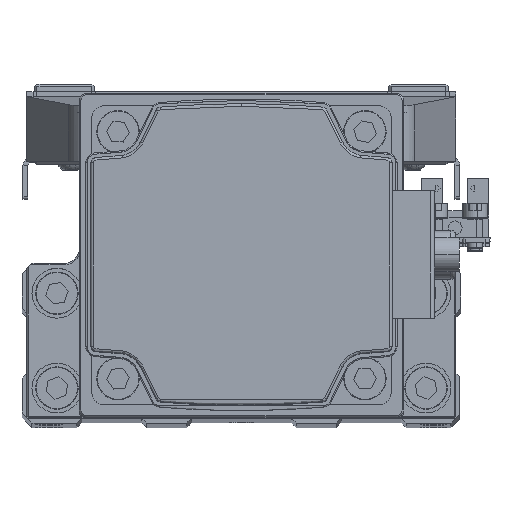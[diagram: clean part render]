
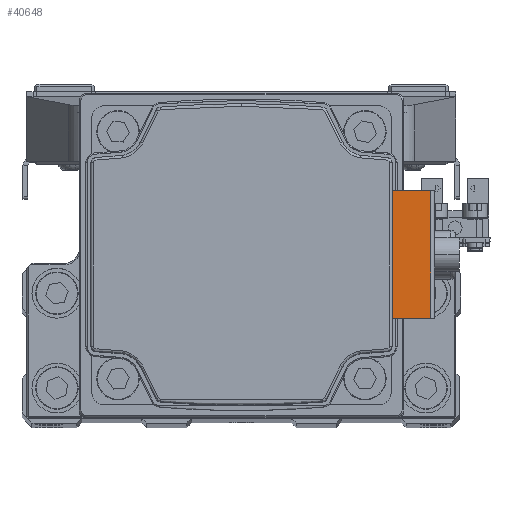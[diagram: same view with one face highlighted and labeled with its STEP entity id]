
A CAD part, top view. The second image highlights one B-rep face of the part: STEP entity #40648.
In plain terms, the highlighted planar face has unit normal (0, 0, 1) as drawn and (0, 0, -1) by its records, which use the part's own axes.
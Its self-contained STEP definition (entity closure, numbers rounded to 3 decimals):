
#1388 = DIRECTION ( 'NONE',  ( 1., 0., 0. ) ) ;
#1590 = EDGE_CURVE ( 'NONE', #5207, #26103, #6397, .T. ) ;
#1980 = ORIENTED_EDGE ( 'NONE', *, *, #37985, .F. ) ;
#3852 = DIRECTION ( 'NONE',  ( 0., 1., 0. ) ) ;
#4057 = DIRECTION ( 'NONE',  ( 1., 0., 0. ) ) ;
#5207 = VERTEX_POINT ( 'NONE', #28097 ) ;
#6397 = LINE ( 'NONE', #20742, #17610 ) ;
#6511 = EDGE_CURVE ( 'NONE', #33432, #9466, #21740, .T. ) ;
#6877 = DIRECTION ( 'NONE',  ( 0., 0., -1. ) ) ;
#7070 = VECTOR ( 'NONE', #3852, 1000. ) ;
#9466 = VERTEX_POINT ( 'NONE', #39618 ) ;
#10416 = FACE_OUTER_BOUND ( 'NONE', #20412, .T. ) ;
#10446 = CARTESIAN_POINT ( 'NONE',  ( 12.75, 37.9, -88.696 ) ) ;
#11129 = LINE ( 'NONE', #36312, #30856 ) ;
#13364 = AXIS2_PLACEMENT_3D ( 'NONE', #39150, #6877, #21229 ) ;
#14280 = ORIENTED_EDGE ( 'NONE', *, *, #42632, .T. ) ;
#17610 = VECTOR ( 'NONE', #35132, 1000. ) ;
#19255 = LINE ( 'NONE', #33642, #24166 ) ;
#20412 = EDGE_LOOP ( 'NONE', ( #25147, #14280, #42256, #1980 ) ) ;
#20742 = CARTESIAN_POINT ( 'NONE',  ( 12.75, 33.991, -88.696 ) ) ;
#21229 = DIRECTION ( 'NONE',  ( -1., 0., 0. ) ) ;
#21740 = LINE ( 'NONE', #36105, #7070 ) ;
#24166 = VECTOR ( 'NONE', #1388, 1000. ) ;
#24769 = PLANE ( 'NONE',  #13364 ) ;
#25147 = ORIENTED_EDGE ( 'NONE', *, *, #6511, .T. ) ;
#26103 = VERTEX_POINT ( 'NONE', #10446 ) ;
#28097 = CARTESIAN_POINT ( 'NONE',  ( 12.75, 30.2, -88.696 ) ) ;
#30856 = VECTOR ( 'NONE', #4057, 1000. ) ;
#33432 = VERTEX_POINT ( 'NONE', #45448 ) ;
#33642 = CARTESIAN_POINT ( 'NONE',  ( 0., 37.9, -88.696 ) ) ;
#35132 = DIRECTION ( 'NONE',  ( 0., 1., 0. ) ) ;
#36105 = CARTESIAN_POINT ( 'NONE',  ( -12.75, 37.9, -88.696 ) ) ;
#36312 = CARTESIAN_POINT ( 'NONE',  ( 18.438, 30.2, -88.696 ) ) ;
#37985 = EDGE_CURVE ( 'NONE', #33432, #5207, #11129, .T. ) ;
#39150 = CARTESIAN_POINT ( 'NONE',  ( 0., 37.9, -88.696 ) ) ;
#39618 = CARTESIAN_POINT ( 'NONE',  ( -12.75, 37.9, -88.696 ) ) ;
#40648 = ADVANCED_FACE ( 'NONE', ( #10416 ), #24769, .T. ) ;
#42256 = ORIENTED_EDGE ( 'NONE', *, *, #1590, .F. ) ;
#42632 = EDGE_CURVE ( 'NONE', #9466, #26103, #19255, .T. ) ;
#45448 = CARTESIAN_POINT ( 'NONE',  ( -12.75, 30.2, -88.696 ) ) ;
